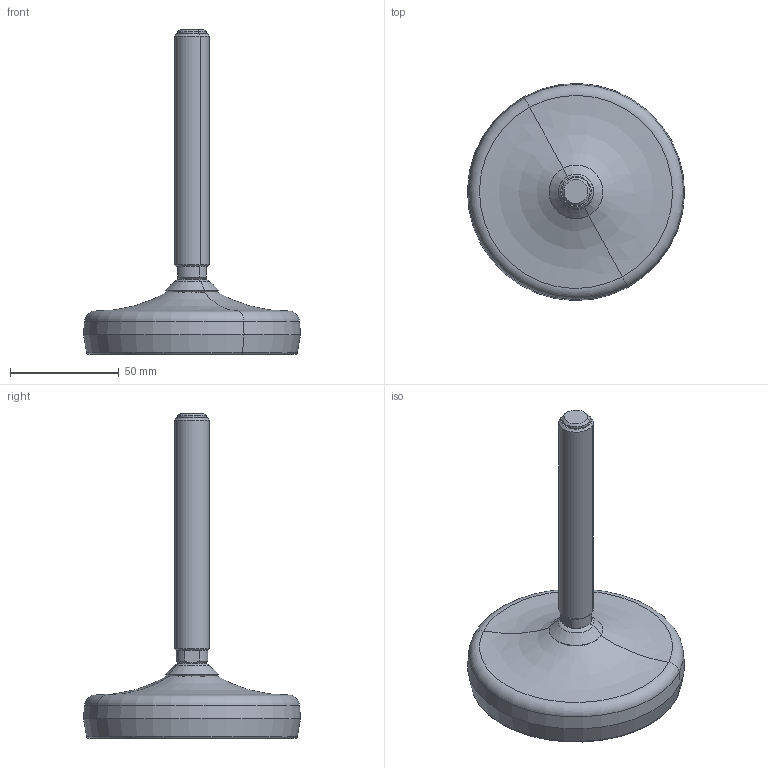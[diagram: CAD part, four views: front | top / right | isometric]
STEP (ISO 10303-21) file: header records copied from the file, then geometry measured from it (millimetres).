
FILE_DESCRIPTION(('CATIA V5 STEP Exchange'),'2;1');
FILE_NAME('X:\CODICI MOVEX\3D per clienti\Lorena Mascheretti\30-04-2014\P92502_01.stp','2014-04-30T06:15:56+00:00',('none'),('none'),'Version 5-6 Release 2012','CATIA V5 STEP AP203','none');
FILE_SCHEMA(('CONFIG_CONTROL_DESIGN'));
Length unit declared in the file: millimetre
Products named in the file (1): P92502_01
Assembly tree (3 placements, depth 2):
  P92502_01
    #57
    #1034
    #2082
Bounding box: 99.97 x 99.97 x 149.62 mm (x, y, z)
Volume: 190504.4 mm3; surface area: 49390.2 mm2
Topology: 4 solids, 4 shells, 99 faces, 197 edges, 117 vertices
Faces by surface type: cone 34, plane 23, cylinder 18, torus 18, revolution 6
Entity records: 2406 total; most frequent: CARTESIAN_POINT 419, ORIENTED_EDGE 394, DIRECTION 328, AXIS2_PLACEMENT_3D 204, EDGE_CURVE 197, CIRCLE 139, VERTEX_POINT 117, EDGE_LOOP 114
